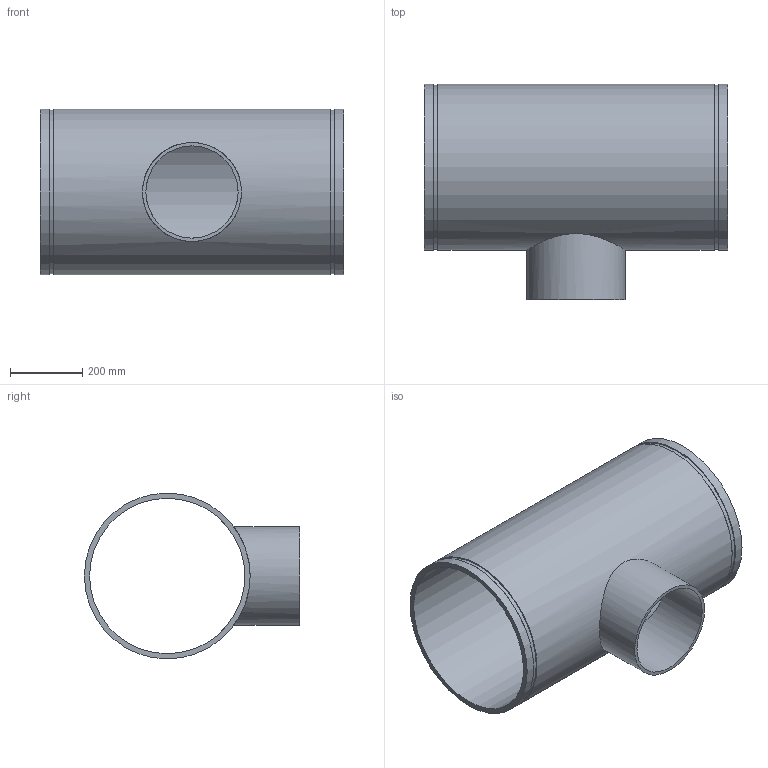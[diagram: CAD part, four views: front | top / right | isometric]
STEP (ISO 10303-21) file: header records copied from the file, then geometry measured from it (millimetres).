
FILE_DESCRIPTION(/* description */ ('VIC REDUCING TEE No 29T FFT (OGSxMPT)','CAx-IF Rec.Pracs.---Representation and Presentation of Product Manufacturing Information (PMI)---4.0---2014-10-13'),/* implementation_level */ '2;1');
FILE_NAME(/* name */ 'C:\Users\kkamble\AppData\Roaming\Autodesk\ApplicationPlugins\Back Up\Victaulic_IPS_Tee Reducing_No 29T FFT (OGSxMPT)\Victaulic_IPS_Tee Reducing_No 29T FFT (OGSxMPT)_18.0x10.0 (450x250).stp',/* time_stamp */ '2020-09-16T22:40:10+05:00',/* author */ ('CORINNE GRAY'),/* organization */ ('Victaulic'),/* preprocessor_version */ 'ST-DEVELOPER v17.2',/* originating_system */ 'Autodesk Inventor 2019',/* authorisation */ '');
FILE_SCHEMA (('AP242_MANAGED_MODEL_BASED_3D_ENGINEERING_MIM_LF { 1 0 10303 442 1 1 4 }'));
Length unit declared in the file: inch
Products named in the file (1): 29 FFT-18.0x10.0
Bounding box: 838.2 x 593.85 x 457.2 mm (x, y, z)
Volume: 17022602.1 mm3; surface area: 2553480.1 mm2
Topology: 1 solids, 1 shells, 15 faces, 32 edges, 24 vertices
Faces by surface type: cylinder 8, plane 7
Full cylindrical faces by diameter (mm): 254.508 x1, 273.05 x1, 428.6 x1, 451.637 x2, 457.2 x3
Entity records: 725 total; most frequent: CARTESIAN_POINT 237, DIRECTION 106, ORIENTED_EDGE 64, AXIS2_PLACEMENT_3D 49, EDGE_CURVE 32, EDGE_LOOP 24, VERTEX_POINT 24, CIRCLE 20
